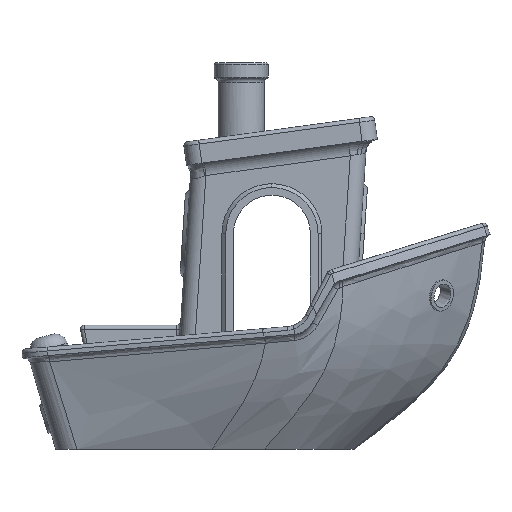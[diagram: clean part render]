
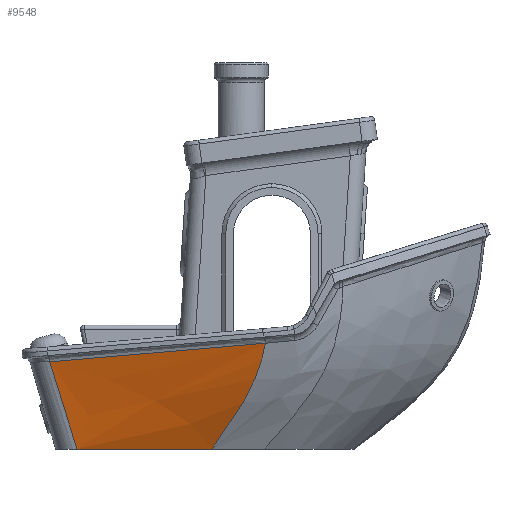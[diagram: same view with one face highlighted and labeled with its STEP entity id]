
A CAD part, front view. The second image highlights one B-rep face of the part: STEP entity #9548.
In plain terms, the highlighted free-form (B-spline) face has degree [3, 3] with [8, 8] control points.
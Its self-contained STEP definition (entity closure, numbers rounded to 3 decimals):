
#5584=CARTESIAN_POINT('',(1.159,-13.45,13.762));
#5585=VERTEX_POINT('',#5584);
#5708=CARTESIAN_POINT('',(-26.901,-8.723,11.335));
#5709=VERTEX_POINT('',#5708);
#5717=CARTESIAN_POINT('',(1.159,-13.451,13.767));
#5718=CARTESIAN_POINT('',(-8.19,-11.851,12.969));
#5719=CARTESIAN_POINT('',(-17.54,-10.258,12.161));
#5720=CARTESIAN_POINT('',(-26.901,-8.723,11.335));
#5721=B_SPLINE_CURVE_WITH_KNOTS('',3,(#5717,#5718,#5719,#5720),.UNSPECIFIED.,.F.,.F.,(4,4),(0.,1.),.UNSPECIFIED.);
#5722=EDGE_CURVE('',#5585,#5709,#5721,.T.);
#8612=CARTESIAN_POINT('',(-5.774,-7.49,0.));
#8613=VERTEX_POINT('',#8612);
#8620=CARTESIAN_POINT('',(-23.329,-6.649,0.));
#8621=VERTEX_POINT('',#8620);
#8622=CARTESIAN_POINT('',(-23.329,-6.649,0.));
#8623=DIRECTION('',(0.999,-0.048,-0.));
#8624=VECTOR('',#8623,17.575);
#8625=LINE('',#8622,#8624);
#8626=EDGE_CURVE('',#8621,#8613,#8625,.T.);
#8984=CARTESIAN_POINT('',(-5.774,-7.49,0.));
#8985=CARTESIAN_POINT('',(-4.163,-8.759,2.267));
#8986=CARTESIAN_POINT('',(-2.553,-10.029,4.534));
#8987=CARTESIAN_POINT('',(-1.306,-11.077,6.822));
#8988=CARTESIAN_POINT('',(-0.682,-11.602,7.966));
#8989=CARTESIAN_POINT('',(-0.155,-12.068,9.115));
#8990=CARTESIAN_POINT('',(0.251,-12.46,10.271));
#8991=CARTESIAN_POINT('',(0.657,-12.852,11.427));
#8992=CARTESIAN_POINT('',(0.952,-13.177,12.59));
#8993=CARTESIAN_POINT('',(1.159,-13.449,13.757));
#8994=B_SPLINE_CURVE_WITH_KNOTS('',3,(#8984,#8985,#8986,#8987,#8988,#8989,#8990,#8991,#8992,#8993),.UNSPECIFIED.,.F.,.F.,(4,3,3,4),(0.,0.5,0.75,1.),.UNSPECIFIED.);
#8995=EDGE_CURVE('',#8613,#5585,#8994,.T.);
#9451=CARTESIAN_POINT('',(-26.901,-8.723,11.335));
#9452=DIRECTION('',(0.296,0.172,-0.94));
#9453=VECTOR('',#9452,12.064);
#9454=LINE('',#9451,#9453);
#9455=EDGE_CURVE('',#5709,#8621,#9454,.T.);
#9477=CARTESIAN_POINT('',(1.159,-13.45,13.762));
#9478=CARTESIAN_POINT('',(1.029,-13.28,13.031));
#9479=CARTESIAN_POINT('',(0.866,-13.089,12.302));
#9480=CARTESIAN_POINT('',(0.214,-12.401,9.98));
#9481=CARTESIAN_POINT('',(-0.448,-11.799,8.396));
#9482=CARTESIAN_POINT('',(-2.553,-10.029,4.535));
#9483=CARTESIAN_POINT('',(-4.163,-8.759,2.267));
#9484=CARTESIAN_POINT('',(-5.774,-7.49,0.));
#9485=CARTESIAN_POINT('',(-2.63,-12.801,13.439));
#9486=CARTESIAN_POINT('',(-2.718,-12.648,12.725));
#9487=CARTESIAN_POINT('',(-2.834,-12.483,12.012));
#9488=CARTESIAN_POINT('',(-3.311,-11.858,9.745));
#9489=CARTESIAN_POINT('',(-3.821,-11.294,8.204));
#9490=CARTESIAN_POINT('',(-5.507,-9.647,4.447));
#9491=CARTESIAN_POINT('',(-6.832,-8.504,2.225));
#9492=CARTESIAN_POINT('',(-8.145,-7.376,0.));
#9493=CARTESIAN_POINT('',(-6.419,-12.155,13.114));
#9494=CARTESIAN_POINT('',(-6.463,-12.001,12.421));
#9495=CARTESIAN_POINT('',(-6.534,-11.837,11.728));
#9496=CARTESIAN_POINT('',(-6.851,-11.234,9.525));
#9497=CARTESIAN_POINT('',(-7.223,-10.711,8.024));
#9498=CARTESIAN_POINT('',(-8.485,-9.237,4.354));
#9499=CARTESIAN_POINT('',(-9.5,-8.247,2.178));
#9500=CARTESIAN_POINT('',(-10.516,-7.263,0.));
#9501=CARTESIAN_POINT('',(-11.095,-11.362,12.712));
#9502=CARTESIAN_POINT('',(-11.086,-11.219,12.042));
#9503=CARTESIAN_POINT('',(-11.101,-11.064,11.373));
#9504=CARTESIAN_POINT('',(-11.218,-10.505,9.243));
#9505=CARTESIAN_POINT('',(-11.417,-10.035,7.79));
#9506=CARTESIAN_POINT('',(-12.157,-8.769,4.229));
#9507=CARTESIAN_POINT('',(-12.793,-7.945,2.115));
#9508=CARTESIAN_POINT('',(-13.442,-7.123,0.));
#9509=CARTESIAN_POINT('',(-11.981,-11.212,12.635));
#9510=CARTESIAN_POINT('',(-11.963,-11.07,11.97));
#9511=CARTESIAN_POINT('',(-11.966,-10.917,11.306));
#9512=CARTESIAN_POINT('',(-12.046,-10.366,9.19));
#9513=CARTESIAN_POINT('',(-12.212,-9.907,7.746));
#9514=CARTESIAN_POINT('',(-12.853,-8.68,4.206));
#9515=CARTESIAN_POINT('',(-13.417,-7.889,2.103));
#9516=CARTESIAN_POINT('',(-13.997,-7.096,0.));
#9517=CARTESIAN_POINT('',(-17.544,-10.272,12.155));
#9518=CARTESIAN_POINT('',(-17.463,-10.139,11.518));
#9519=CARTESIAN_POINT('',(-17.398,-9.994,10.882));
#9520=CARTESIAN_POINT('',(-17.234,-9.496,8.855));
#9521=CARTESIAN_POINT('',(-17.192,-9.103,7.468));
#9522=CARTESIAN_POINT('',(-17.216,-8.13,4.055));
#9523=CARTESIAN_POINT('',(-17.335,-7.54,2.025));
#9524=CARTESIAN_POINT('',(-17.478,-6.929,0.));
#9525=CARTESIAN_POINT('',(-22.222,-9.49,11.748));
#9526=CARTESIAN_POINT('',(-22.086,-9.359,11.136));
#9527=CARTESIAN_POINT('',(-21.959,-9.22,10.525));
#9528=CARTESIAN_POINT('',(-21.577,-8.76,8.575));
#9529=CARTESIAN_POINT('',(-21.35,-8.424,7.236));
#9530=CARTESIAN_POINT('',(-20.863,-7.658,3.932));
#9531=CARTESIAN_POINT('',(-20.628,-7.238,1.963));
#9532=CARTESIAN_POINT('',(-20.403,-6.789,0.));
#9533=CARTESIAN_POINT('',(-26.901,-8.723,11.335));
#9534=CARTESIAN_POINT('',(-26.715,-8.615,10.744));
#9535=CARTESIAN_POINT('',(-26.529,-8.507,10.152));
#9536=CARTESIAN_POINT('',(-25.933,-8.161,8.263));
#9537=CARTESIAN_POINT('',(-25.524,-7.924,6.965));
#9538=CARTESIAN_POINT('',(-24.52,-7.341,3.778));
#9539=CARTESIAN_POINT('',(-23.925,-6.995,1.889));
#9540=CARTESIAN_POINT('',(-23.329,-6.649,0.));
#9541=B_SPLINE_SURFACE_WITH_KNOTS('',3,3,((#9477,#9478,#9479,#9480,#9481,#9482,#9483,#9484),(#9485,#9486,#9487,#9488,#9489,#9490,#9491,#9492),(#9493,#9494,#9495,#9496,#9497,#9498,#9499,#9500),(#9501,#9502,#9503,#9504,#9505,#9506,#9507,#9508),(#9509,#9510,#9511,#9512,#9513,#9514,#9515,#9516),(#9517,#9518,#9519,#9520,#9521,#9522,#9523,#9524),(#9525,#9526,#9527,#9528,#9529,#9530,#9531,#9532),(#9533,#9534,#9535,#9536,#9537,#9538,#9539,#9540)),.UNSPECIFIED.,.F.,.F.,.U.,(4,2,2,4),(4,2,2,4),(0.,0.405,0.5,1.),(0.,0.156,0.5,1.),.UNSPECIFIED.);
#9542=ORIENTED_EDGE('',*,*,#5722,.T.);
#9543=ORIENTED_EDGE('',*,*,#9455,.T.);
#9544=ORIENTED_EDGE('',*,*,#8626,.T.);
#9545=ORIENTED_EDGE('',*,*,#8995,.T.);
#9546=EDGE_LOOP('',(#9542,#9543,#9544,#9545));
#9547=FACE_BOUND('',#9546,.T.);
#9548=ADVANCED_FACE('',(#9547),#9541,.T.);
